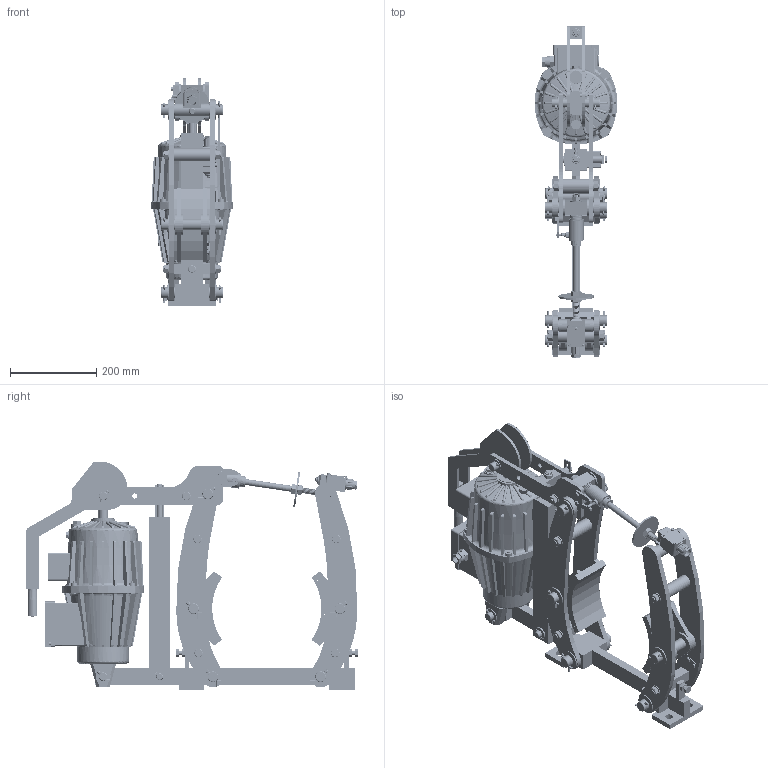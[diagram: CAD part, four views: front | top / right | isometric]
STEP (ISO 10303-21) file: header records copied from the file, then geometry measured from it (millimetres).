
FILE_DESCRIPTION((''),'2;1');
FILE_NAME('4459_254_553_E00002','2018-01-30T',('VORO'),(''),'CREO PARAMETRIC BY PTC INC, 2017170','CREO PARAMETRIC BY PTC INC, 2017170','');
FILE_SCHEMA(('CONFIG_CONTROL_DESIGN'));
Products named in the file (1): 4459_254_553_E00002
Bounding box: 192 x 770.51 x 531.51 mm (x, y, z)
Surface area: 1835962.3 mm2 (no closed solid volume)
Topology: 0 solids, 3077 shells, 3707 faces, 23384 edges, 22073 vertices
Faces by surface type: plane 1547, cylinder 1191, cone 718, torus 233, bspline 18
Entity records: 397587 total; most frequent: CARTESIAN_POINT 125761, PRESENTATION_STYLE_ASSIGNMENT 30130, STYLED_ITEM 26433, DIRECTION 25501, ORIENTED_EDGE 24668, CURVE_STYLE 23366, EDGE_CURVE 23366, VERTEX_POINT 22071
